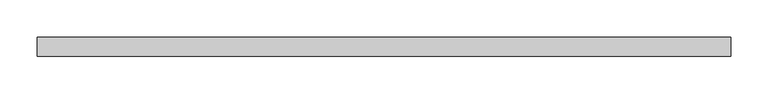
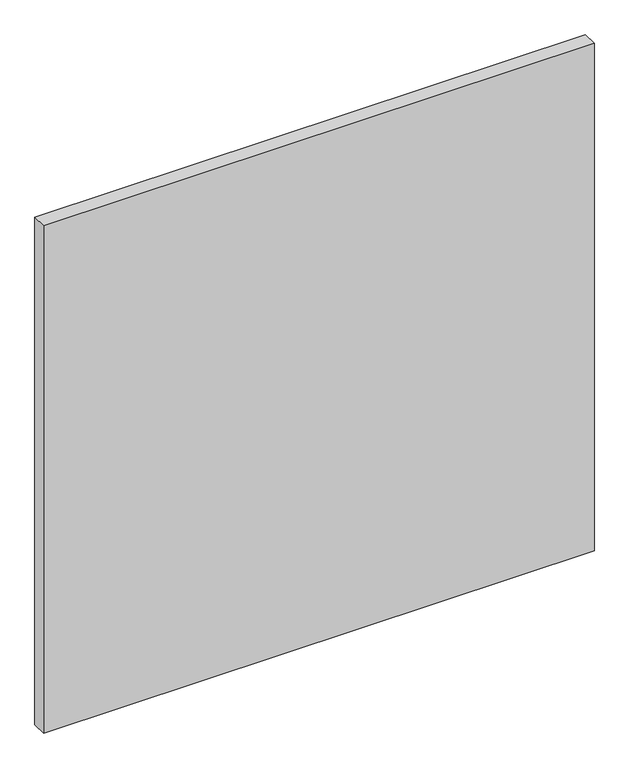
"""IFC4 building model written with IfcOpenShell, lengths in millimetres: plate geometry, Системная панель : ADSK_Cтеклопакет_25."""

from ifc_helpers import new_model, si_unit, origin, origin_with_axes, place, context, project, spatial, polyline, outline, extrude, source, transform, mapped, element, save


def plate_b4692fb1(model_context):
    return source(origin(), model_context, "Body", "SweptSolid", [
        extrude(outline(polyline([(462.5, -12.5), (-462.5, -12.5), (-462.5, 12.5), (462.5, 12.5), (462.5, -12.5)])), origin_with_axes(), (0.0, 0.0, 1.0), 900.0),
    ])


if __name__ == "__main__":
    model = new_model("IFC4")
    model_context = context("Model", 3, world=origin())
    ifc_project = project(units=[si_unit("LENGTHUNIT", "METRE", prefix="MILLI")], contexts=[model_context])
    site = spatial("IfcSite", under=ifc_project)
    building = spatial("IfcBuilding", under=site)
    placement = place(None, origin())
    plate_shape = plate_b4692fb1(model_context)
    element("IfcPlate", 1, ObjectType="Системная панель : ADSK_Cтеклопакет_25", at=placement, inside=building, context=model_context, shape_type="MappedRepresentation", body=[
        mapped(plate_shape, transform((0.0, 0.0, 0.0), x_axis=(1.0, 0.0, 0.0), y_axis=(0.0, 1.0, 0.0), z_axis=(0.0, 0.0, 1.0))),
    ])
    save(model, "model.ifc")
